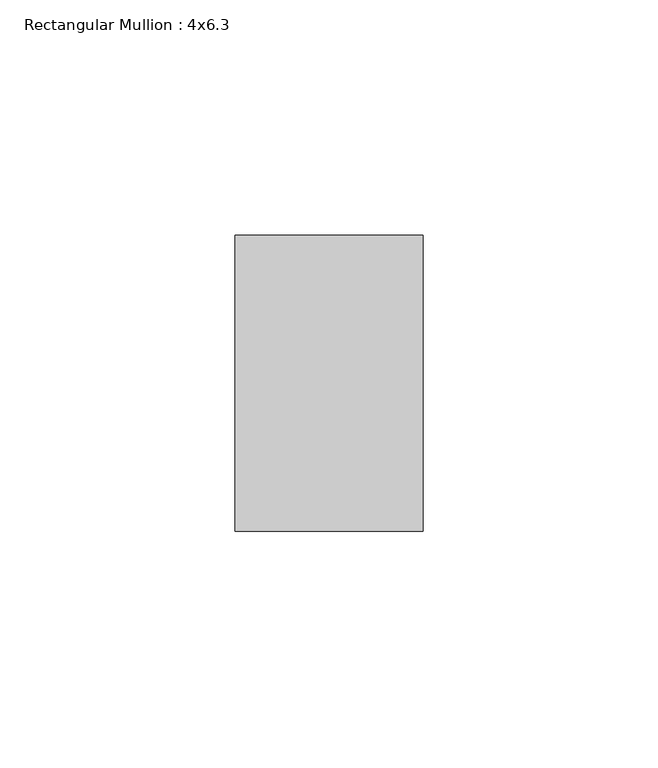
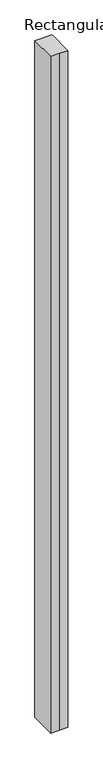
"""IFC4 building model written with IfcOpenShell, lengths in millimetres: member geometry, Rectangular Mullion : 4x6.3."""

from ifc_helpers import new_model, si_unit, frame, origin, place, context, project, spatial, polyline, outline, extrude, source, transform, mapped, element, save


def rectangular_mullion_4x6_3_a1a9a89a(model_context):
    return source(origin(), model_context, "Body", "SweptSolid", [
        extrude(outline(polyline([(-20.0, 20.0), (-20.0, 83.0), (20.0, 83.0), (20.0, 20.0), (0.0, 20.0), (-20.0, 20.0)])), frame((0.0, 0.0, -1658.213821), z_axis=(0.0, 0.0, 1.0), x_axis=(1.0, 0.0, 0.0)), (0.0, 0.0, 1.0), 1658.213821),
    ])


if __name__ == "__main__":
    model = new_model("IFC4")
    model_context = context("Model", 3, world=origin())
    ifc_project = project(units=[si_unit("LENGTHUNIT", "METRE", prefix="MILLI")], contexts=[model_context])
    site = spatial("IfcSite", under=ifc_project)
    building = spatial("IfcBuilding", under=site)
    placement = place(None, origin())
    rectangular_mullion_4x6_3_shape = rectangular_mullion_4x6_3_a1a9a89a(model_context)
    element("IfcMember", 1, ObjectType="Rectangular Mullion : 4x6.3", at=placement, inside=building, context=model_context, shape_type="MappedRepresentation", body=[
        mapped(rectangular_mullion_4x6_3_shape, transform((0.0, 0.0, 0.0), x_axis=(1.0, 0.0, 0.0), y_axis=(0.0, 1.0, 0.0), z_axis=(0.0, 0.0, 1.0))),
    ])
    save(model, "model.ifc")
